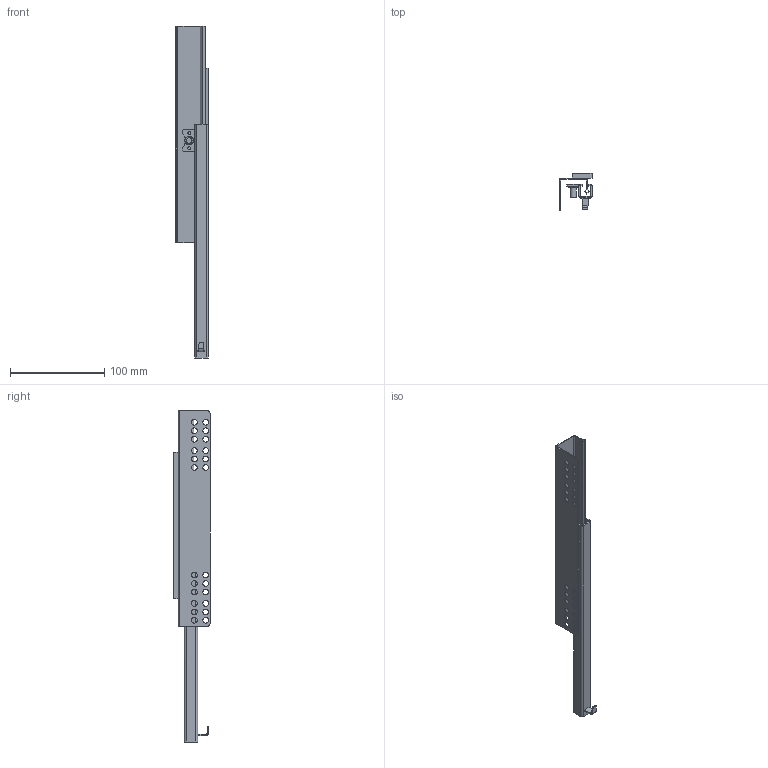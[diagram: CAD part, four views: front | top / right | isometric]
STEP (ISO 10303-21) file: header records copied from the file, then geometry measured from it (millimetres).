
FILE_DESCRIPTION(/* description */ ('Akc'),/* implementation_level */ '2;1');
FILE_NAME(/* name */ 'C:\Users\dmitruk\Documents\WORK\НАПРАВЛЯЮЩИЕ\Скрытого монтажа\Q-Type\Направляющая cкрытого насадного монтажа 3-4 Q-Type_P\Направляющая cкрытого насадного монтажа 3-4 Q-Type-350 P.stp',/* time_stamp */ '2022-04-19T18:03:40+03:00',/* author */ ('dmitruk'),/* organization */ ('AKS'),/* preprocessor_version */ 'ST-DEVELOPER v16.5',/* originating_system */ 'Autodesk Inventor 2017',/* authorisation */ '');
FILE_SCHEMA (('AUTOMOTIVE_DESIGN { 1 0 10303 214 3 1 1 }'));
Length unit declared in the file: millimetre
Products named in the file (3): 3-4 Q-Type 300-300; 3-4 Q-Type \X2\0432044B04340432043804360435043D04380435
\X0\ P.ipt-350; 3-4 Q-Type основание-
350 P
Assembly tree (2 placements, depth 2):
  3-4 Q-Type 300-300
    3-4 Q-Type \X2\0432044B04340432043804360435043D04380435
\X0\ P.ipt-350
    3-4 Q-Type основание-
350 P
Bounding box: 34 x 39 x 352 mm (x, y, z)
Volume: 50799.5 mm3; surface area: 64114.5 mm2
Topology: 2 solids, 2 shells, 108 faces, 288 edges, 188 vertices
Faces by surface type: plane 60, cylinder 46, bspline 2
Full cylindrical faces by diameter (mm): 3 x2, 6 x25, 9 x1
Entity records: 3569 total; most frequent: CARTESIAN_POINT 621, DIRECTION 572, ORIENTED_EDGE 518, EDGE_CURVE 259, AXIS2_PLACEMENT_3D 206, EDGE_LOOP 194, VERTEX_POINT 187, LINE 160
